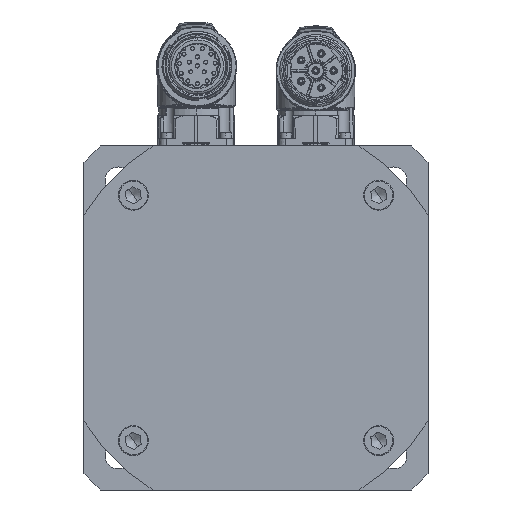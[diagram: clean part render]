
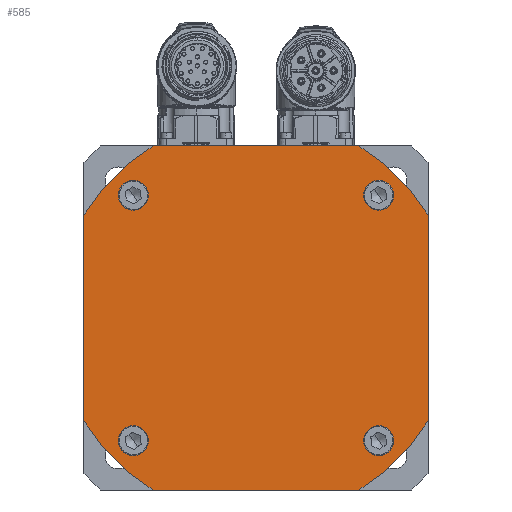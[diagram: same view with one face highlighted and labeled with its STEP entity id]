
A CAD part, left-side view. The second image highlights one B-rep face of the part: STEP entity #585.
In plain terms, the highlighted planar face has unit normal (-1, 0, 0).
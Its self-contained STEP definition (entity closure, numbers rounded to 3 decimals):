
#71=CARTESIAN_POINT('Cartesian Point',(0.,34.391,57.5)) ;
#87=CARTESIAN_POINT('Cartesian Point',(0.,57.5,34.391)) ;
#90=CARTESIAN_POINT('Axis2P3D Location',(0.,0.,0.)) ;
#114=CARTESIAN_POINT('Line Origine',(0.,0.,57.5)) ;
#118=CARTESIAN_POINT('Cartesian Point',(0.,-34.391,57.5)) ;
#450=CARTESIAN_POINT('Cartesian Point',(0.,57.5,-34.391)) ;
#453=CARTESIAN_POINT('Line Origine',(0.,57.5,0.)) ;
#465=CARTESIAN_POINT('Axis2P3D Location',(0.,0.,0.)) ;
#470=CARTESIAN_POINT('Line Origine',(0.,-57.5,0.)) ;
#474=CARTESIAN_POINT('Cartesian Point',(0.,-57.5,34.391)) ;
#476=CARTESIAN_POINT('Cartesian Point',(0.,-57.5,-34.391)) ;
#479=CARTESIAN_POINT('Axis2P3D Location',(0.,0.,0.)) ;
#484=CARTESIAN_POINT('Axis2P3D Location',(0.,0.,0.)) ;
#488=CARTESIAN_POINT('Cartesian Point',(0.,34.391,-57.5)) ;
#491=CARTESIAN_POINT('Line Origine',(0.,0.,-57.5)) ;
#495=CARTESIAN_POINT('Cartesian Point',(0.,-34.391,-57.5)) ;
#498=CARTESIAN_POINT('Axis2P3D Location',(0.,0.,0.)) ;
#513=CARTESIAN_POINT('Axis2P3D Location',(0.,41.012,41.012)) ;
#517=CARTESIAN_POINT('Cartesian Point',(0.,36.012,41.012)) ;
#519=CARTESIAN_POINT('Cartesian Point',(0.,46.012,41.012)) ;
#522=CARTESIAN_POINT('Axis2P3D Location',(0.,41.012,41.012)) ;
#531=CARTESIAN_POINT('Axis2P3D Location',(0.,-41.012,-41.012)) ;
#535=CARTESIAN_POINT('Cartesian Point',(0.,-46.012,-41.012)) ;
#537=CARTESIAN_POINT('Cartesian Point',(0.,-36.012,-41.012)) ;
#540=CARTESIAN_POINT('Axis2P3D Location',(0.,-41.012,-41.012)) ;
#549=CARTESIAN_POINT('Axis2P3D Location',(0.,-41.012,41.012)) ;
#553=CARTESIAN_POINT('Cartesian Point',(0.,-46.012,41.012)) ;
#555=CARTESIAN_POINT('Cartesian Point',(0.,-36.012,41.012)) ;
#558=CARTESIAN_POINT('Axis2P3D Location',(0.,-41.012,41.012)) ;
#567=CARTESIAN_POINT('Axis2P3D Location',(0.,41.012,-41.012)) ;
#571=CARTESIAN_POINT('Cartesian Point',(0.,36.012,-41.012)) ;
#573=CARTESIAN_POINT('Cartesian Point',(0.,46.012,-41.012)) ;
#576=CARTESIAN_POINT('Axis2P3D Location',(0.,41.012,-41.012)) ;
#91=DIRECTION('Axis2P3D Direction',(1.,0.,0.)) ;
#115=DIRECTION('Vector Direction',(0.,1.,0.)) ;
#454=DIRECTION('Vector Direction',(0.,0.,1.)) ;
#466=DIRECTION('Axis2P3D Direction',(1.,0.,0.)) ;
#467=DIRECTION('Axis2P3D XDirection',(0.,1.,0.)) ;
#471=DIRECTION('Vector Direction',(0.,0.,-1.)) ;
#480=DIRECTION('Axis2P3D Direction',(1.,0.,0.)) ;
#485=DIRECTION('Axis2P3D Direction',(1.,0.,0.)) ;
#492=DIRECTION('Vector Direction',(0.,-1.,0.)) ;
#499=DIRECTION('Axis2P3D Direction',(1.,0.,0.)) ;
#514=DIRECTION('Axis2P3D Direction',(1.,0.,0.)) ;
#523=DIRECTION('Axis2P3D Direction',(1.,0.,0.)) ;
#532=DIRECTION('Axis2P3D Direction',(1.,0.,0.)) ;
#541=DIRECTION('Axis2P3D Direction',(1.,0.,0.)) ;
#550=DIRECTION('Axis2P3D Direction',(1.,0.,0.)) ;
#559=DIRECTION('Axis2P3D Direction',(1.,0.,0.)) ;
#568=DIRECTION('Axis2P3D Direction',(1.,0.,0.)) ;
#577=DIRECTION('Axis2P3D Direction',(1.,0.,0.)) ;
#92=AXIS2_PLACEMENT_3D('Circle Axis2P3D',#90,#91,$) ;
#468=AXIS2_PLACEMENT_3D('Plane Axis2P3D',#465,#466,#467) ;
#481=AXIS2_PLACEMENT_3D('Circle Axis2P3D',#479,#480,$) ;
#486=AXIS2_PLACEMENT_3D('Circle Axis2P3D',#484,#485,$) ;
#500=AXIS2_PLACEMENT_3D('Circle Axis2P3D',#498,#499,$) ;
#515=AXIS2_PLACEMENT_3D('Circle Axis2P3D',#513,#514,$) ;
#524=AXIS2_PLACEMENT_3D('Circle Axis2P3D',#522,#523,$) ;
#533=AXIS2_PLACEMENT_3D('Circle Axis2P3D',#531,#532,$) ;
#542=AXIS2_PLACEMENT_3D('Circle Axis2P3D',#540,#541,$) ;
#551=AXIS2_PLACEMENT_3D('Circle Axis2P3D',#549,#550,$) ;
#560=AXIS2_PLACEMENT_3D('Circle Axis2P3D',#558,#559,$) ;
#569=AXIS2_PLACEMENT_3D('Circle Axis2P3D',#567,#568,$) ;
#578=AXIS2_PLACEMENT_3D('Circle Axis2P3D',#576,#577,$) ;
#504=ORIENTED_EDGE('Oriented Edge',*,*,#478,.F.) ;
#505=ORIENTED_EDGE('Oriented Edge',*,*,#483,.F.) ;
#506=ORIENTED_EDGE('Oriented Edge',*,*,#120,.F.) ;
#507=ORIENTED_EDGE('Oriented Edge',*,*,#94,.F.) ;
#508=ORIENTED_EDGE('Oriented Edge',*,*,#457,.F.) ;
#509=ORIENTED_EDGE('Oriented Edge',*,*,#490,.F.) ;
#510=ORIENTED_EDGE('Oriented Edge',*,*,#497,.F.) ;
#511=ORIENTED_EDGE('Oriented Edge',*,*,#502,.F.) ;
#528=ORIENTED_EDGE('Oriented Edge',*,*,#521,.F.) ;
#529=ORIENTED_EDGE('Oriented Edge',*,*,#526,.F.) ;
#546=ORIENTED_EDGE('Oriented Edge',*,*,#539,.F.) ;
#547=ORIENTED_EDGE('Oriented Edge',*,*,#544,.F.) ;
#564=ORIENTED_EDGE('Oriented Edge',*,*,#557,.F.) ;
#565=ORIENTED_EDGE('Oriented Edge',*,*,#562,.F.) ;
#582=ORIENTED_EDGE('Oriented Edge',*,*,#575,.F.) ;
#583=ORIENTED_EDGE('Oriented Edge',*,*,#580,.F.) ;
#530=FACE_BOUND('Face Bound',#527,.T.) ;
#548=FACE_BOUND('Face Bound',#545,.T.) ;
#566=FACE_BOUND('Face Bound',#563,.T.) ;
#584=FACE_BOUND('Face Bound',#581,.T.) ;
#116=VECTOR('Line Direction',#115,1.) ;
#455=VECTOR('Line Direction',#454,1.) ;
#472=VECTOR('Line Direction',#471,1.) ;
#493=VECTOR('Line Direction',#492,1.) ;
#585=ADVANCED_FACE('',(#512,#530,#548,#566,#584),#469,.F.) ;
#93=CIRCLE('generated circle',#92,67.) ;
#482=CIRCLE('generated circle',#481,67.) ;
#487=CIRCLE('generated circle',#486,67.) ;
#501=CIRCLE('generated circle',#500,67.) ;
#516=CIRCLE('generated circle',#515,5.) ;
#525=CIRCLE('generated circle',#524,5.) ;
#534=CIRCLE('generated circle',#533,5.) ;
#543=CIRCLE('generated circle',#542,5.) ;
#552=CIRCLE('generated circle',#551,5.) ;
#561=CIRCLE('generated circle',#560,5.) ;
#570=CIRCLE('generated circle',#569,5.) ;
#579=CIRCLE('generated circle',#578,5.) ;
#94=EDGE_CURVE('',#88,#72,#93,.T.) ;
#120=EDGE_CURVE('',#72,#119,#117,.F.) ;
#457=EDGE_CURVE('',#451,#88,#456,.T.) ;
#478=EDGE_CURVE('',#475,#477,#473,.T.) ;
#483=EDGE_CURVE('',#119,#475,#482,.T.) ;
#490=EDGE_CURVE('',#489,#451,#487,.T.) ;
#497=EDGE_CURVE('',#496,#489,#494,.F.) ;
#502=EDGE_CURVE('',#477,#496,#501,.T.) ;
#521=EDGE_CURVE('',#518,#520,#516,.F.) ;
#526=EDGE_CURVE('',#520,#518,#525,.F.) ;
#539=EDGE_CURVE('',#536,#538,#534,.F.) ;
#544=EDGE_CURVE('',#538,#536,#543,.F.) ;
#557=EDGE_CURVE('',#554,#556,#552,.F.) ;
#562=EDGE_CURVE('',#556,#554,#561,.F.) ;
#575=EDGE_CURVE('',#572,#574,#570,.F.) ;
#580=EDGE_CURVE('',#574,#572,#579,.F.) ;
#503=EDGE_LOOP('Oriented Loop',(#504,#505,#506,#507,#508,#509,#510,#511)) ;
#527=EDGE_LOOP('Oriented Loop',(#528,#529)) ;
#545=EDGE_LOOP('Oriented Loop',(#546,#547)) ;
#563=EDGE_LOOP('Oriented Loop',(#564,#565)) ;
#581=EDGE_LOOP('Oriented Loop',(#582,#583)) ;
#512=FACE_OUTER_BOUND('Face Bound',#503,.T.) ;
#117=LINE('Line',#114,#116) ;
#456=LINE('Line',#453,#455) ;
#473=LINE('Line',#470,#472) ;
#494=LINE('Line',#491,#493) ;
#469=PLANE('Plane',#468) ;
#72=VERTEX_POINT('Vertex Point',#71) ;
#88=VERTEX_POINT('Vertex Point',#87) ;
#119=VERTEX_POINT('Vertex Point',#118) ;
#451=VERTEX_POINT('Vertex Point',#450) ;
#475=VERTEX_POINT('Vertex Point',#474) ;
#477=VERTEX_POINT('Vertex Point',#476) ;
#489=VERTEX_POINT('Vertex Point',#488) ;
#496=VERTEX_POINT('Vertex Point',#495) ;
#518=VERTEX_POINT('Vertex Point',#517) ;
#520=VERTEX_POINT('Vertex Point',#519) ;
#536=VERTEX_POINT('Vertex Point',#535) ;
#538=VERTEX_POINT('Vertex Point',#537) ;
#554=VERTEX_POINT('Vertex Point',#553) ;
#556=VERTEX_POINT('Vertex Point',#555) ;
#572=VERTEX_POINT('Vertex Point',#571) ;
#574=VERTEX_POINT('Vertex Point',#573) ;
